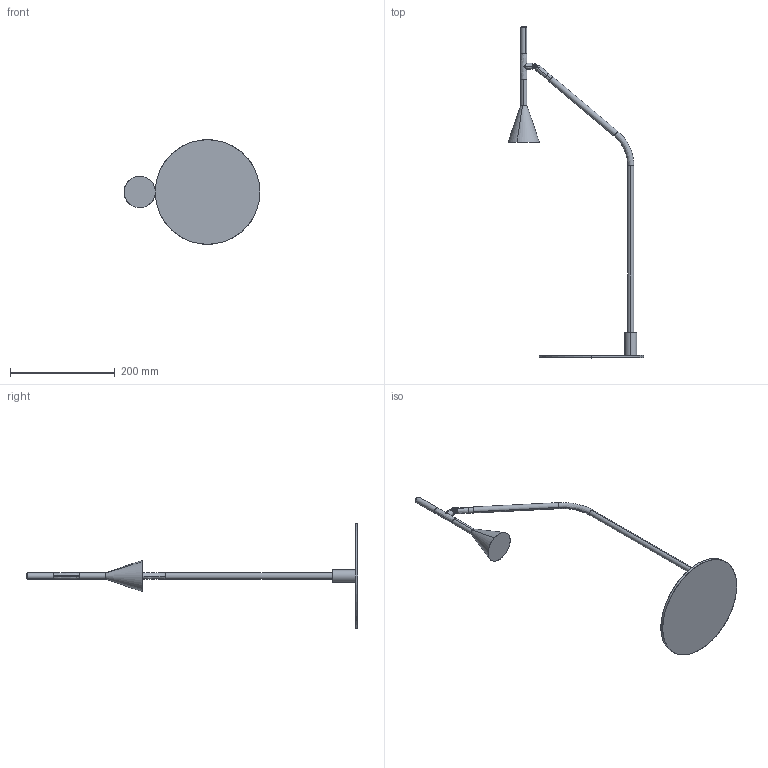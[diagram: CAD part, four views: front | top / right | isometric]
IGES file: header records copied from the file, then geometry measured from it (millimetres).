
Start section: SolidWorks IGES file using analytic representation for surfaces
Global section: file name: C:\Users\Agus\Desktop\NOVEDADES ENERO 2019\savia\sobremesa\S1274.IGS; native system: SolidWorks 2018; preprocessor: SolidWorks 2018; author: Agus; date: 190213.154240; units: millimetre
Bounding box: 259.73 x 634.64 x 200 mm (x, y, z)
Surface area: 115944.2 mm2 (no closed solid volume)
Topology: 0 solids, 0 shells, 80 faces, 1844 edges, 1841 vertices
Faces by surface type: revolution 49, bspline 31
